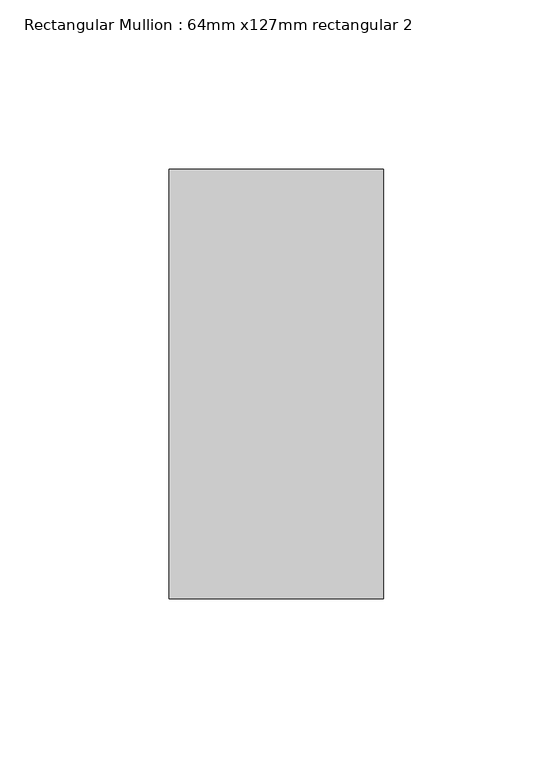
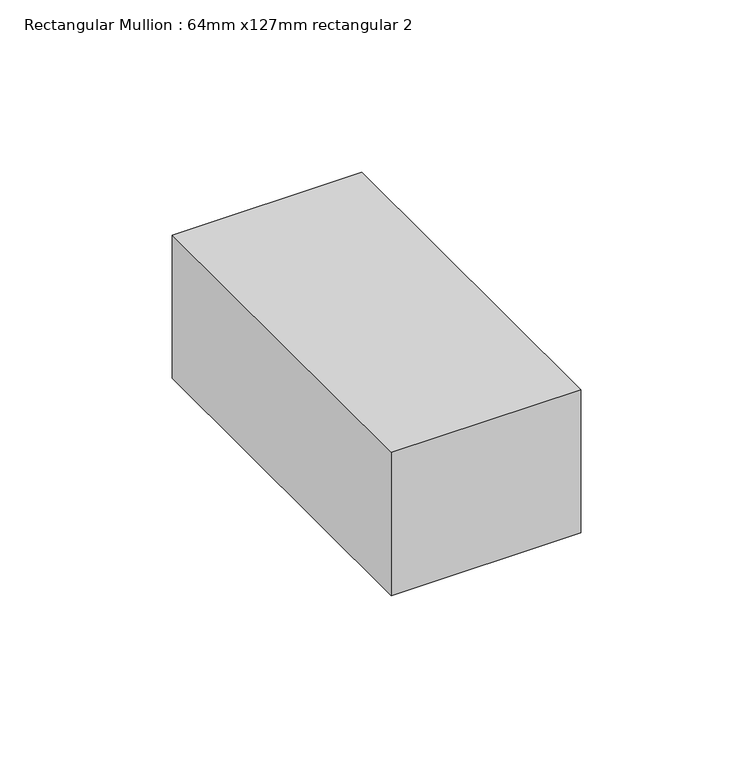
"""IFC4 building model written with IfcOpenShell, lengths in millimetres: member geometry, Rectangular Mullion : 64mm x127mm rectangular 2."""

from ifc_helpers import new_model, si_unit, frame, origin, place, context, project, spatial, polyline, outline, extrude, source, transform, mapped, element, save


def rectangular_mullion_64mm_x127mm_rectangular_2_67d1cd44(model_context):
    return source(origin(), model_context, "Body", "SweptSolid", [
        extrude(outline(polyline([(0.0, 63.5), (0.0, -63.5), (-63.5, -63.5), (-63.5, 63.5), (0.0, 63.5)])), frame((0.0, 0.0, -50.8), z_axis=(0.0, 0.0, 1.0), x_axis=(1.0, 0.0, 0.0)), (0.0, 0.0, 1.0), 50.8),
    ])


if __name__ == "__main__":
    model = new_model("IFC4")
    model_context = context("Model", 3, world=origin())
    ifc_project = project(units=[si_unit("LENGTHUNIT", "METRE", prefix="MILLI")], contexts=[model_context])
    site = spatial("IfcSite", under=ifc_project)
    building = spatial("IfcBuilding", under=site)
    placement = place(None, origin())
    rectangular_mullion_64mm_x127mm_rectangular_2_shape = rectangular_mullion_64mm_x127mm_rectangular_2_67d1cd44(model_context)
    element("IfcMember", 1, ObjectType="Rectangular Mullion : 64mm x127mm rectangular 2", at=placement, inside=building, context=model_context, shape_type="MappedRepresentation", body=[
        mapped(rectangular_mullion_64mm_x127mm_rectangular_2_shape, transform((0.0, 0.0, 0.0), x_axis=(1.0, 0.0, 0.0), y_axis=(0.0, 1.0, 0.0), z_axis=(0.0, 0.0, 1.0))),
    ])
    save(model, "model.ifc")
